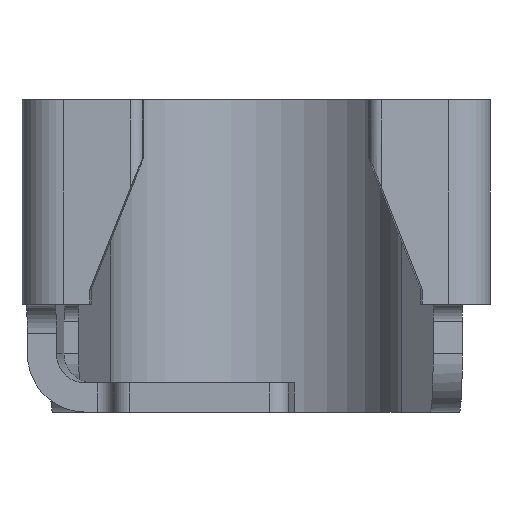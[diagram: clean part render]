
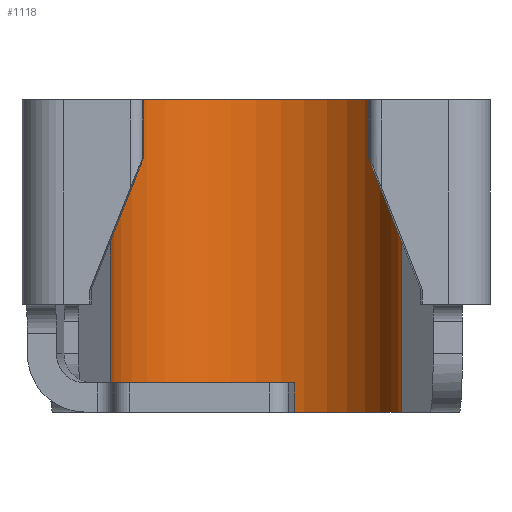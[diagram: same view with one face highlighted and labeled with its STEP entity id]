
A CAD part, front view. The second image highlights one B-rep face of the part: STEP entity #1118.
In plain terms, the highlighted cylindrical face has radius 2.5 mm (diameter 5 mm), a partial arc.
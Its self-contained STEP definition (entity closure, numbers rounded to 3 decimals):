
#4 = DIRECTION ( 'NONE',  ( 1., -0.001, 0. ) ) ;
#66 = AXIS2_PLACEMENT_3D ( 'NONE', #746, #856, #883 ) ;
#79 = DIRECTION ( 'NONE',  ( 0., 0., 1. ) ) ;
#319 = EDGE_CURVE ( 'NONE', #1785, #489, #1377, .T. ) ;
#327 = CARTESIAN_POINT ( 'NONE',  ( 0., 21.968, -3.35 ) ) ;
#405 = CIRCLE ( 'NONE', #66, 2.5 ) ;
#435 = CARTESIAN_POINT ( 'NONE',  ( 2.497, 22.096, 2. ) ) ;
#452 = LINE ( 'NONE', #1463, #1194 ) ;
#489 = VERTEX_POINT ( 'NONE', #435 ) ;
#515 = CIRCLE ( 'NONE', #1494, 2.5 ) ;
#716 = CARTESIAN_POINT ( 'NONE',  ( -2.497, 22.096, -3.35 ) ) ;
#733 = DIRECTION ( 'NONE',  ( 0., 0., 1. ) ) ;
#746 = CARTESIAN_POINT ( 'NONE',  ( 0., 21.968, -3.35 ) ) ;
#776 = EDGE_CURVE ( 'NONE', #1089, #1785, #405, .T. ) ;
#798 = DIRECTION ( 'NONE',  ( 0., 0., -1. ) ) ;
#856 = DIRECTION ( 'NONE',  ( 0., 0., -1. ) ) ;
#883 = DIRECTION ( 'NONE',  ( 1., -0.001, 0. ) ) ;
#990 = CARTESIAN_POINT ( 'NONE',  ( 2.497, 22.096, -3.35 ) ) ;
#1004 = AXIS2_PLACEMENT_3D ( 'NONE', #327, #1033, #4 ) ;
#1033 = DIRECTION ( 'NONE',  ( 0., 0., 1. ) ) ;
#1087 = ORIENTED_EDGE ( 'NONE', *, *, #1627, .F. ) ;
#1089 = VERTEX_POINT ( 'NONE', #716 ) ;
#1118 = ADVANCED_FACE ( 'NONE', ( #1606 ), #1866, .F. ) ;
#1191 = CARTESIAN_POINT ( 'NONE',  ( 0., 21.968, 2. ) ) ;
#1194 = VECTOR ( 'NONE', #733, 1000. ) ;
#1291 = CARTESIAN_POINT ( 'NONE',  ( 2.497, 22.096, -3.35 ) ) ;
#1377 = LINE ( 'NONE', #990, #1614 ) ;
#1435 = EDGE_LOOP ( 'NONE', ( #1833, #1451, #1087, #1812 ) ) ;
#1451 = ORIENTED_EDGE ( 'NONE', *, *, #319, .T. ) ;
#1463 = CARTESIAN_POINT ( 'NONE',  ( -2.497, 22.096, -3.35 ) ) ;
#1494 = AXIS2_PLACEMENT_3D ( 'NONE', #1191, #798, #1784 ) ;
#1563 = CARTESIAN_POINT ( 'NONE',  ( -2.497, 22.096, 2. ) ) ;
#1606 = FACE_OUTER_BOUND ( 'NONE', #1435, .T. ) ;
#1614 = VECTOR ( 'NONE', #79, 1000. ) ;
#1627 = EDGE_CURVE ( 'NONE', #1816, #489, #515, .T. ) ;
#1784 = DIRECTION ( 'NONE',  ( 1., -0.001, 0. ) ) ;
#1785 = VERTEX_POINT ( 'NONE', #1291 ) ;
#1812 = ORIENTED_EDGE ( 'NONE', *, *, #1864, .F. ) ;
#1816 = VERTEX_POINT ( 'NONE', #1563 ) ;
#1833 = ORIENTED_EDGE ( 'NONE', *, *, #776, .T. ) ;
#1864 = EDGE_CURVE ( 'NONE', #1089, #1816, #452, .T. ) ;
#1866 = CYLINDRICAL_SURFACE ( 'NONE', #1004, 2.5 ) ;
